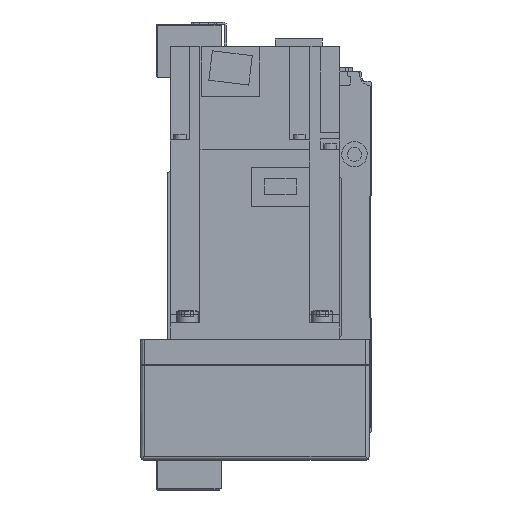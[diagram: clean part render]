
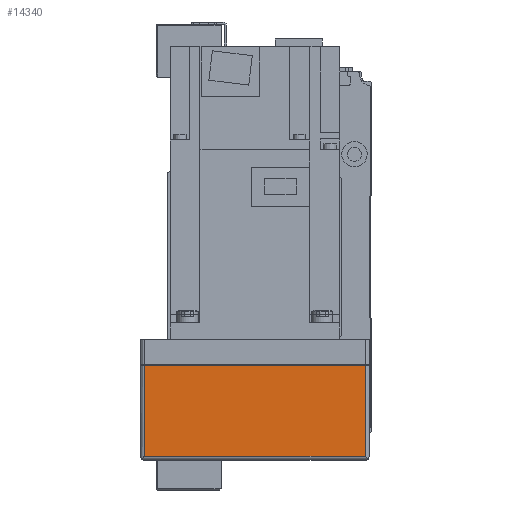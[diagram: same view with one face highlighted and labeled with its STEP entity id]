
A CAD part, left-side view. The second image highlights one B-rep face of the part: STEP entity #14340.
In plain terms, the highlighted planar face has unit normal (-1, 0, 0).
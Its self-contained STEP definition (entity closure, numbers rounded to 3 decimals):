
#2578=ORIENTED_EDGE('',*,*,#5932,.T.);
#2579=ORIENTED_EDGE('',*,*,#5860,.T.);
#2580=ORIENTED_EDGE('',*,*,#5933,.F.);
#2581=ORIENTED_EDGE('',*,*,#5872,.F.);
#5860=EDGE_CURVE('',#7686,#7689,#9190,.T.);
#5872=EDGE_CURVE('',#7696,#7698,#9195,.T.);
#5932=EDGE_CURVE('',#7696,#7686,#9237,.T.);
#5933=EDGE_CURVE('',#7698,#7689,#9238,.T.);
#7686=VERTEX_POINT('',#22487);
#7689=VERTEX_POINT('',#22493);
#7696=VERTEX_POINT('',#22516);
#7698=VERTEX_POINT('',#22519);
#9190=LINE('',#22494,#10503);
#9195=LINE('',#22518,#10508);
#9237=LINE('',#22642,#10550);
#9238=LINE('',#22643,#10551);
#10503=VECTOR('',#17935,1000.);
#10508=VECTOR('',#17962,1000.);
#10550=VECTOR('',#18082,1000.);
#10551=VECTOR('',#18083,1000.);
#11659=EDGE_LOOP('',(#2578,#2579,#2580,#2581));
#12782=FACE_BOUND('',#11659,.T.);
#13737=PLANE('',#15421);
#14340=ADVANCED_FACE('',(#12782),#13737,.T.);
#15421=AXIS2_PLACEMENT_3D('',#22641,#18080,#18081);
#17935=DIRECTION('',(0.,0.,1.));
#17962=DIRECTION('',(0.,0.,1.));
#18080=DIRECTION('',(-1.,0.,0.));
#18081=DIRECTION('',(0.,0.,1.));
#18082=DIRECTION('',(0.,-1.,0.));
#18083=DIRECTION('',(0.,-1.,0.));
#22487=CARTESIAN_POINT('',(-230.,-52.,-55.));
#22493=CARTESIAN_POINT('',(-230.,-52.,-12.));
#22494=CARTESIAN_POINT('',(-230.,-52.,-57.));
#22516=CARTESIAN_POINT('',(-230.,52.,-55.));
#22518=CARTESIAN_POINT('',(-230.,52.,-57.));
#22519=CARTESIAN_POINT('',(-230.,52.,-12.));
#22641=CARTESIAN_POINT('',(-230.,52.,-57.));
#22642=CARTESIAN_POINT('',(-230.,54.,-55.));
#22643=CARTESIAN_POINT('',(-230.,52.,-12.));
